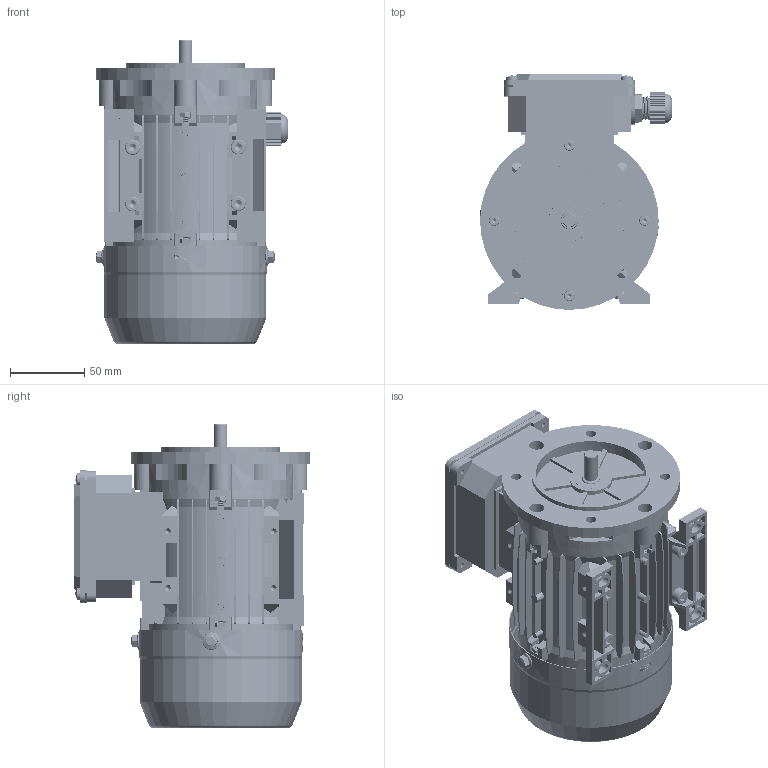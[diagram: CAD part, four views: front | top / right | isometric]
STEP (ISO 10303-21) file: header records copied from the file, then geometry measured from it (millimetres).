
FILE_DESCRIPTION (( 'STEP AP203' ), '1' );
FILE_NAME ('MS56 B35 3Dͼ.STEP', '2024-08-02T05:55:44', ( 'User' ), ( 'China' ), 'SwSTEP 2.0', 'SolidWorks 2018', '' );
FILE_SCHEMA (( 'CONFIG_CONTROL_DESIGN' ));
Length unit declared in the file: millimetre
Products named in the file (23): MS56諉盄碟菁釱; MS56蛌粣; MS56B5ヶ裔; 蹟杶郋M16X1.5; AO56瑞珔; 黑芛M16X1.5; 蹟杶簸M16X1.5; circlips for shaft--type a large gb_GB_CONNECTING_PIECE_RING_RRA 11; MS56 B35  3Dͼ; cross recessed pan head screws gb_GB_CROSS_SCREWS_TYPE1 M4X6-6  H type-S; MS56瑞欶; MS56諉盄碟裔; hexagon socket head cap screws gb_GB_FASTENER_SCREWS_HSHCS M4X16-S; MS56菁褐; hex nuts, style 1-grades ab gb_GB_FASTENER_NUT_SNAB1 M4-S; MS56儂褲; hexagon socket head cap screws gb_GB_FASTENER_SCREWS_HSHCS M6X16-S; spring lock washers--normal type gb_GB_FASTENER_WASHER_SW 4; MS56B3綴裔; 蚐猾12X22X3; hex flange bolts-heavy grade b gb_GB_FASTENER_BOLT_HFBB M5X10-S; deep groove ball bearings gb_Rolling bearings 6201 GB 276-94; hexagon socket head cap screws gb_GB_FASTENER_SCREWS_HSHCS M4X20-S
Assembly tree (51 placements, depth 2):
  MS56 B35  3Dͼ
    MS56儂褲
    MS56B3綴裔
    deep groove ball bearings gb_Rolling bearings 6201 GB 276-94  x2
    MS56蛌粣
    AO56瑞珔
    circlips for shaft--type a large gb_GB_CONNECTING_PIECE_RING_RRA 11
    MS56瑞欶
    hexagon socket head cap screws gb_GB_FASTENER_SCREWS_HSHCS M4X16-S  x4
    hex nuts, style 1-grades ab gb_GB_FASTENER_NUT_SNAB1 M4-S  x7
    spring lock washers--normal type gb_GB_FASTENER_WASHER_SW 4  x4
    hex flange bolts-heavy grade b gb_GB_FASTENER_BOLT_HFBB M5X10-S  x3
    MS56諉盄碟菁釱
    蹟杶郋M16X1.5
    蹟杶簸M16X1.5
    cross recessed pan head screws gb_GB_CROSS_SCREWS_TYPE1 M4X6-6  H type-S  x8
    MS56諉盄碟裔
    MS56菁褐  x2
    hexagon socket head cap screws gb_GB_FASTENER_SCREWS_HSHCS M6X16-S  x4
    蚐猾12X22X3
    hexagon socket head cap screws gb_GB_FASTENER_SCREWS_HSHCS M4X20-S  x4
    MS56B5ヶ裔
    黑芛M16X1.5
Bounding box: 129.02 x 158.5 x 204.54 mm (x, y, z)
Volume: 410655.3 mm3; surface area: 362296.6 mm2
Topology: 53 solids, 53 shells, 7555 faces, 17970 edges, 10511 vertices
Faces by surface type: cone 2770, plane 2450, cylinder 1941, bspline 168, torus 162, sphere 64
Entity records: 137642 total; most frequent: CARTESIAN_POINT 38109, ORIENTED_EDGE 20416, DIRECTION 19674, EDGE_CURVE 10208, AXIS2_PLACEMENT_3D 6723, VERTEX_POINT 6356, LINE 6228, VECTOR 6228
